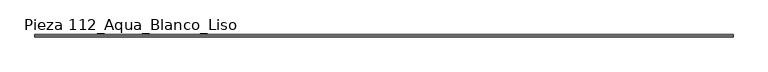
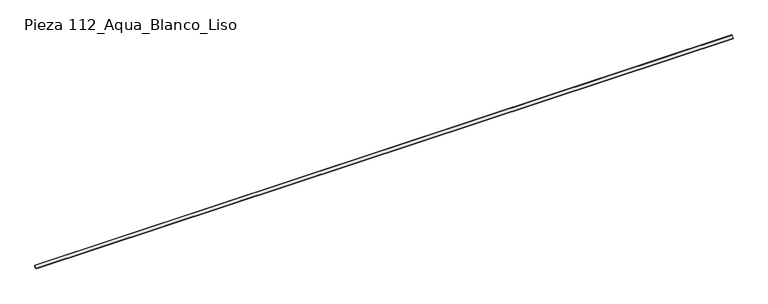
"""IFC4 building model written with IfcOpenShell, lengths in millimetres: slab geometry, ROSA GRES_112 : Pieza 112_Aqua_Blanco_Liso."""

from ifc_helpers import new_model, si_unit, point, frame, frame_2d, origin, place, context, project, spatial, polyline, circle_curve, trimmed, segment, composite_curve, outline, extrude, source, transform, mapped, element, save


def pieza_112_aqua_blanco_liso_ef66cc84(model_context):
    return source(origin(), model_context, "Body", "SweptSolid", [
        extrude(outline(composite_curve([segment(polyline([(9.9734114, 8.7114978), (1.2619137, 0.0), (-30.0265886, 0.0), (-30.0265886, 9.9734114)]), True, "CONTINUOUS"), segment(trimmed(circle_curve(frame_2d((-30.0221432, 39.9955547)), 30.0221435), [point((-30.0265886, 9.9734114))], [point((0.0, 40.0))], True, "CARTESIAN"), True, "CONTINUOUS"), segment(polyline([(0.0, 40.0), (9.9734114, 40.0), (9.9734114, 8.7114978)]), True, "CONTINUOUS")], self_intersect=False)), frame((0.0, 0.0, 0.0), z_axis=(1.0, 0.0, 0.0), x_axis=(0.0, 1.0, 0.0)), (0.0, 0.0, 1.0), 11477.7455198),
    ])


if __name__ == "__main__":
    model = new_model("IFC4")
    model_context = context("Model", 3, world=origin())
    ifc_project = project(units=[si_unit("LENGTHUNIT", "METRE", prefix="MILLI")], contexts=[model_context])
    site = spatial("IfcSite", under=ifc_project)
    building = spatial("IfcBuilding", under=site)
    placement = place(None, origin())
    pieza_112_aqua_blanco_liso_shape = pieza_112_aqua_blanco_liso_ef66cc84(model_context)
    element("IfcSlab", 1, ObjectType="ROSA GRES_112 : Pieza 112_Aqua_Blanco_Liso", at=placement, inside=building, context=model_context, shape_type="MappedRepresentation", body=[
        mapped(pieza_112_aqua_blanco_liso_shape, transform((0.0, 0.0, 0.0), x_axis=(1.0, 0.0, 0.0), y_axis=(0.0, 1.0, 0.0), z_axis=(0.0, 0.0, 1.0))),
    ])
    save(model, "model.ifc")
